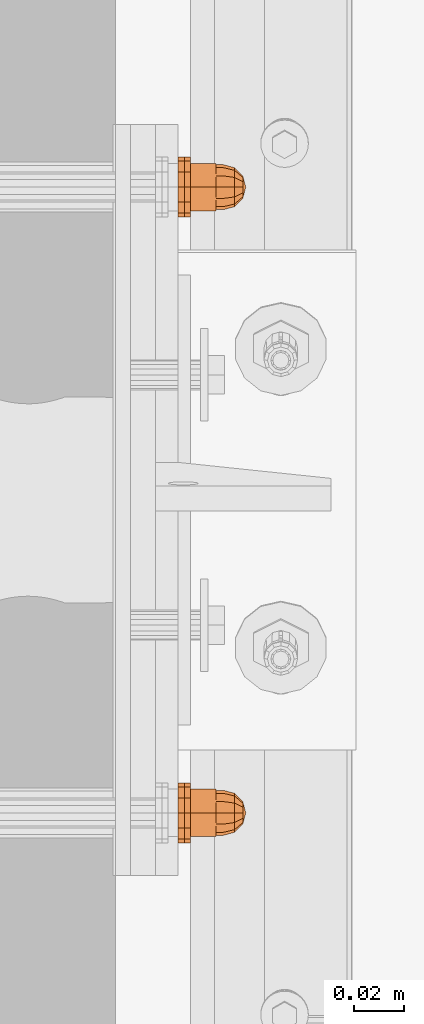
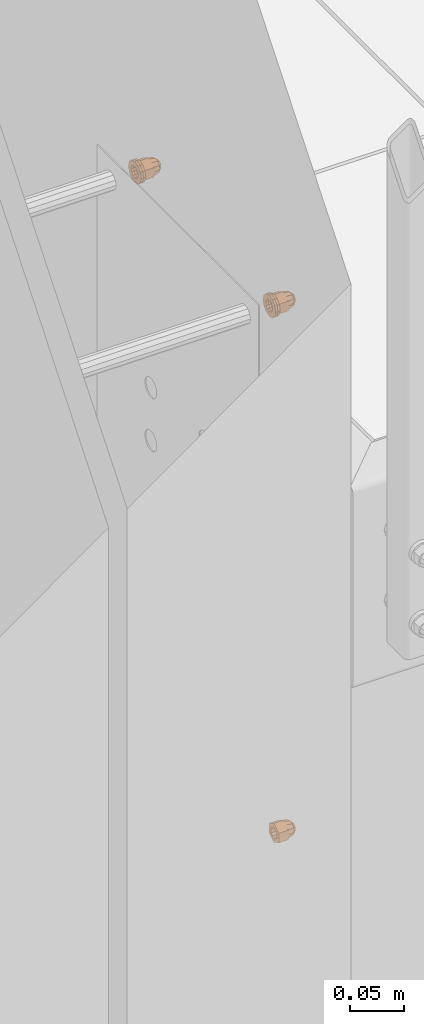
# One storey, part 109 of 162: 7 proxies.
"""IFC2X3 building model written with IfcOpenShell, lengths in millimetres."""

from ifc_helpers import new_model, entity, si_unit, converted_unit, origin_with_axes, place, context, project, spatial, faceted_brep, material, element, save


model = new_model("IFC2X3")

# Units and contexts
model_context = context("Model", 3, precision=1e-09, world=origin_with_axes())
ifc_project = project(units=[si_unit("LENGTHUNIT", "METRE", prefix="MILLI"), si_unit("AREAUNIT", "SQUARE_METRE"), si_unit("VOLUMEUNIT", "CUBIC_METRE"), converted_unit("PLANEANGLEUNIT", "DEGREE", entity("IfcPlaneAngleMeasure", 0.01745329), si_unit("PLANEANGLEUNIT", "RADIAN"), dimensions=[0, 0, 0, 0, 0, 0, 0])], contexts=[model_context])

# Site, building, storey
site_placement = place(None, origin_with_axes())
site = spatial("IfcSite", under=ifc_project, at=site_placement, Name="Hermannstra?e 1a, 60318 Frankfurt", CompositionType="ELEMENT")
building_placement = place(site_placement, origin_with_axes())
building = spatial("IfcBuilding", under=site, at=building_placement, Name="Struktur 1", CompositionType="ELEMENT")
storey_placement = place(building_placement, origin_with_axes())
storey = spatial("IfcBuildingStorey", under=building, at=storey_placement, Name="Default Storey", CompositionType="ELEMENT", Elevation=0.0)

# Proxies
ifc_material_1 = material(Name="Kunststoff")
proxy_1_placement = place(None, origin_with_axes())
element("IfcBuildingElementProxy", 1, at=proxy_1_placement, inside=storey, material=ifc_material_1, ObjectType="-", context=model_context, shape_type="Brep", body=[
    faceted_brep([(2550.80936482, 1691.001678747, 11598.999), (2548.30936482, 1691.001678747, 11598.999), (2548.30936482, 1692.609373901, 11604.999), (2550.80936482, 1692.609373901, 11604.999), (2548.30936482, 1686.609373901, 11594.606695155), (2548.30936482, 1680.609373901, 11592.999), (2548.30936482, 1674.609373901, 11594.606695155), (2548.30936482, 1670.217069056, 11598.999), (2548.30936482, 1668.609373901, 11604.999), (2548.30936482, 1670.217069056, 11610.999), (2548.30936482, 1674.609373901, 11615.391304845), (2548.30936482, 1680.609373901, 11616.999), (2548.30936482, 1686.609373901, 11615.391304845), (2548.30936482, 1691.001678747, 11610.999), (2548.30936482, 1683.859373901, 11599.369834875), (2548.30936482, 1686.238539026, 11601.749), (2548.30936482, 1687.109373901, 11604.999), (2548.30936482, 1686.238539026, 11608.249), (2548.30936482, 1683.859373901, 11610.628165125), (2548.30936482, 1680.609373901, 11611.499), (2548.30936482, 1677.359373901, 11610.628165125), (2548.30936482, 1674.980208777, 11608.249), (2548.30936482, 1674.109373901, 11604.999), (2548.30936482, 1674.980208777, 11601.749), (2548.30936482, 1677.359373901, 11599.369834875), (2548.30936482, 1680.609373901, 11598.499), (2550.80936482, 1687.109373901, 11604.999), (2550.80936482, 1686.238539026, 11601.749), (2550.80936482, 1686.609373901, 11594.606695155), (2550.80936482, 1691.001678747, 11610.999), (2550.80936482, 1686.609373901, 11615.391304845), (2550.80936482, 1680.609373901, 11616.999), (2550.80936482, 1674.609373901, 11615.391304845), (2550.80936482, 1670.217069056, 11610.999), (2550.80936482, 1668.609373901, 11604.999), (2550.80936482, 1670.217069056, 11598.999), (2550.80936482, 1674.609373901, 11594.606695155), (2550.80936482, 1680.609373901, 11592.999), (2550.80936482, 1683.859373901, 11599.369834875), (2550.80936482, 1680.609373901, 11598.499), (2550.80936482, 1677.359373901, 11599.369834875), (2550.80936482, 1674.980208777, 11601.749), (2550.80936482, 1674.109373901, 11604.999), (2550.80936482, 1674.980208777, 11608.249), (2550.80936482, 1677.359373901, 11610.628165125), (2550.80936482, 1680.609373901, 11611.499), (2550.80936482, 1683.859373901, 11610.628165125), (2550.80936482, 1686.238539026, 11608.249)], [[[0, 1, 2, 3]], [[1, 4, 5, 6, 7, 8, 9, 10, 11, 12, 13, 2], [14, 15, 16, 17, 18, 19, 20, 21, 22, 23, 24, 25]], [[26, 16, 15, 27]], [[28, 0, 3, 29, 30, 31, 32, 33, 34, 35, 36, 37], [26, 27, 38, 39, 40, 41, 42, 43, 44, 45, 46, 47]], [[1, 0, 28, 4]], [[16, 26, 47, 17]], [[3, 2, 13, 29]], [[27, 15, 14, 38]], [[4, 28, 37, 5]], [[17, 47, 46, 18]], [[29, 13, 12, 30]], [[38, 14, 25, 39]], [[18, 46, 45, 19]], [[5, 37, 36, 6]], [[39, 25, 24, 40]], [[30, 12, 11, 31]], [[19, 45, 44, 20]], [[6, 36, 35, 7]], [[40, 24, 23, 41]], [[31, 11, 10, 32]], [[20, 44, 43, 21]], [[7, 35, 34, 8]], [[41, 23, 22, 42]], [[32, 10, 9, 33]], [[21, 43, 42, 22]], [[8, 34, 33, 9]]]),
])
ifc_material_2 = material(Name="A4")
proxy_2_placement = place(None, origin_with_axes())
element("IfcBuildingElementProxy", 2, at=proxy_2_placement, inside=storey, material=ifc_material_2, ObjectType="-", context=model_context, shape_type="Brep", body=[
    faceted_brep([(2553.30936482, 1670.217069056, 11598.999), (2550.80936482, 1670.217069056, 11598.999), (2550.80936482, 1674.609373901, 11594.606695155), (2553.30936482, 1674.609373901, 11594.606695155), (2553.30936482, 1680.609373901, 11592.999), (2553.30936482, 1686.609373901, 11594.606695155), (2553.30936482, 1691.001678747, 11598.999), (2553.30936482, 1692.609373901, 11604.999), (2553.30936482, 1691.001678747, 11610.999), (2553.30936482, 1686.609373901, 11615.391304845), (2553.30936482, 1680.609373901, 11616.999), (2553.30936482, 1674.609373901, 11615.391304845), (2553.30936482, 1670.217069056, 11610.999), (2553.30936482, 1668.609373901, 11604.999), (2553.30936482, 1683.859373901, 11599.369834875), (2553.30936482, 1680.609373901, 11598.499), (2553.30936482, 1677.359373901, 11599.369834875), (2553.30936482, 1674.980208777, 11601.749), (2553.30936482, 1674.109373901, 11604.999), (2553.30936482, 1674.980208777, 11608.249), (2553.30936482, 1677.359373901, 11610.628165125), (2553.30936482, 1680.609373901, 11611.499), (2553.30936482, 1683.859373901, 11610.628165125), (2553.30936482, 1686.238539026, 11608.249), (2553.30936482, 1687.109373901, 11604.999), (2553.30936482, 1686.238539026, 11601.749), (2550.80936482, 1668.609373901, 11604.999), (2550.80936482, 1670.217069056, 11610.999), (2550.80936482, 1674.609373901, 11615.391304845), (2550.80936482, 1680.609373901, 11616.999), (2550.80936482, 1686.609373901, 11615.391304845), (2550.80936482, 1691.001678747, 11610.999), (2550.80936482, 1692.609373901, 11604.999), (2550.80936482, 1691.001678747, 11598.999), (2550.80936482, 1686.609373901, 11594.606695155), (2550.80936482, 1680.609373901, 11592.999), (2550.80936482, 1674.109373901, 11604.999), (2550.80936482, 1674.980208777, 11601.749), (2550.80936482, 1677.359373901, 11599.369834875), (2550.80936482, 1680.609373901, 11598.499), (2550.80936482, 1683.859373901, 11599.369834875), (2550.80936482, 1686.238539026, 11601.749), (2550.80936482, 1687.109373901, 11604.999), (2550.80936482, 1686.238539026, 11608.249), (2550.80936482, 1683.859373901, 11610.628165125), (2550.80936482, 1680.609373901, 11611.499), (2550.80936482, 1677.359373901, 11610.628165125), (2550.80936482, 1674.980208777, 11608.249)], [[[0, 1, 2, 3]], [[3, 4, 5, 6, 7, 8, 9, 10, 11, 12, 13, 0], [14, 15, 16, 17, 18, 19, 20, 21, 22, 23, 24, 25]], [[1, 26, 27, 28, 29, 30, 31, 32, 33, 34, 35, 2], [36, 37, 38, 39, 40, 41, 42, 43, 44, 45, 46, 47]], [[37, 17, 16, 38]], [[1, 0, 13, 26]], [[17, 37, 36, 18]], [[38, 16, 15, 39]], [[3, 2, 35, 4]], [[26, 13, 12, 27]], [[18, 36, 47, 19]], [[39, 15, 14, 40]], [[4, 35, 34, 5]], [[27, 12, 11, 28]], [[19, 47, 46, 20]], [[40, 14, 25, 41]], [[5, 34, 33, 6]], [[24, 42, 41, 25]], [[28, 11, 10, 29]], [[20, 46, 45, 21]], [[23, 43, 42, 24]], [[6, 33, 32, 7]], [[44, 22, 21, 45]], [[43, 23, 22, 44]], [[29, 10, 9, 30]], [[7, 32, 31, 8]], [[30, 9, 8, 31]]]),
])
proxy_3_placement = place(None, origin_with_axes())
element("IfcBuildingElementProxy", 3, at=proxy_3_placement, inside=storey, material=ifc_material_2, ObjectType="-", context=model_context, shape_type="Brep", body=[
    faceted_brep([(2553.30936482, 1686.609373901, 11604.999), (2563.30936482, 1686.609373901, 11604.999), (2563.30936482, 1685.805526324, 11607.999), (2553.30936482, 1685.805526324, 11607.999), (2563.30936482, 1683.609373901, 11610.195152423), (2553.30936482, 1683.609373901, 11610.195152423), (2553.30936482, 1685.805526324, 11601.999), (2563.30936482, 1685.805526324, 11601.999), (2553.30936482, 1690.089243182, 11599.525794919), (2553.30936482, 1680.609373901, 11594.052589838), (2553.30936482, 1671.129504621, 11599.525794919), (2553.30936482, 1671.129504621, 11610.472205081), (2553.30936482, 1680.609373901, 11615.945410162), (2553.30936482, 1690.089243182, 11610.472205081), (2553.30936482, 1683.609373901, 11599.802847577), (2553.30936482, 1680.609373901, 11610.999), (2553.30936482, 1677.609373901, 11610.195152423), (2553.30936482, 1675.413221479, 11607.999), (2553.30936482, 1674.609373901, 11604.999), (2553.30936482, 1675.413221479, 11601.999), (2553.30936482, 1677.609373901, 11599.802847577), (2553.30936482, 1680.609373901, 11598.999), (2563.30936482, 1680.609373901, 11594.052589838), (2563.30936482, 1690.089243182, 11599.525794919), (2563.30936482, 1690.089243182, 11610.472205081), (2563.30936482, 1680.609373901, 11615.945410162), (2563.30936482, 1671.129504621, 11610.472205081), (2563.30936482, 1671.129504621, 11599.525794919), (2563.30936482, 1683.609373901, 11599.802847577), (2563.30936482, 1680.609373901, 11598.999), (2563.30936482, 1677.609373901, 11599.802847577), (2563.30936482, 1675.413221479, 11601.999), (2563.30936482, 1674.609373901, 11604.999), (2563.30936482, 1675.413221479, 11607.999), (2563.30936482, 1677.609373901, 11610.195152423), (2563.30936482, 1680.609373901, 11610.999)], [[[0, 1, 2, 3]], [[3, 2, 4, 5]], [[1, 0, 6, 7]], [[8, 9, 10, 11, 12, 13], [14, 6, 0, 3, 5, 15, 16, 17, 18, 19, 20, 21]], [[22, 23, 24, 25, 26, 27], [1, 7, 28, 29, 30, 31, 32, 33, 34, 35, 4, 2]], [[7, 6, 14, 28]], [[24, 23, 8, 13]], [[5, 4, 35, 15]], [[13, 12, 25, 24]], [[28, 14, 21, 29]], [[23, 22, 9, 8]], [[15, 35, 34, 16]], [[12, 11, 26, 25]], [[29, 21, 20, 30]], [[22, 27, 10, 9]], [[16, 34, 33, 17]], [[27, 26, 11, 10]], [[30, 20, 19, 31]], [[17, 33, 32, 18]], [[31, 19, 18, 32]]]),
    faceted_brep([(2563.30936482, 1680.609373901, 11595.999), (2566.30936482, 1680.609373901, 11595.999), (2566.30936482, 1676.109373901, 11597.204771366), (2563.30936482, 1676.109373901, 11597.204771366), (2563.30936482, 1685.109373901, 11597.204771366), (2566.30936482, 1685.109373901, 11597.204771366), (2566.30936482, 1688.403602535, 11609.499), (2566.30936482, 1685.109373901, 11612.793228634), (2566.30936482, 1680.609373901, 11613.999), (2566.30936482, 1676.109373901, 11612.793228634), (2566.30936482, 1672.815145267, 11609.499), (2566.30936482, 1671.609373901, 11604.999), (2566.30936482, 1672.815145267, 11600.499), (2566.30936482, 1688.403602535, 11600.499), (2566.30936482, 1689.609373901, 11604.999), (2563.30936482, 1672.815145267, 11609.499), (2563.30936482, 1676.109373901, 11612.793228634), (2563.30936482, 1680.609373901, 11613.999), (2563.30936482, 1685.109373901, 11612.793228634), (2563.30936482, 1688.403602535, 11609.499), (2563.30936482, 1689.609373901, 11604.999), (2563.30936482, 1688.403602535, 11600.499), (2563.30936482, 1672.815145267, 11600.499), (2563.30936482, 1671.609373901, 11604.999)], [[[0, 1, 2, 3]], [[1, 0, 4, 5]], [[6, 7, 8, 9, 10, 11, 12, 2, 1, 5, 13, 14]], [[15, 16, 17, 18, 19, 20, 21, 4, 0, 3, 22, 23]], [[3, 2, 12, 22]], [[5, 4, 21, 13]], [[22, 12, 11, 23]], [[13, 21, 20, 14]], [[7, 18, 17, 8]], [[19, 6, 14, 20]], [[18, 7, 6, 19]], [[23, 11, 10, 15]], [[8, 17, 16, 9]], [[15, 10, 9, 16]]]),
    faceted_brep([(2566.30936482, 1688.403602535, 11600.499), (2570.80936482, 1687.359373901, 11601.101885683), (2570.80936482, 1684.506488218, 11598.249), (2566.30936482, 1685.109373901, 11597.204771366), (2566.30936482, 1672.815145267, 11609.499), (2566.30936482, 1676.109373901, 11612.793228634), (2566.30936482, 1680.609373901, 11613.999), (2566.30936482, 1685.109373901, 11612.793228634), (2566.30936482, 1688.403602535, 11609.499), (2566.30936482, 1689.609373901, 11604.999), (2566.30936482, 1680.609373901, 11595.999), (2566.30936482, 1676.109373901, 11597.204771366), (2566.30936482, 1672.815145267, 11600.499), (2566.30936482, 1671.609373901, 11604.999), (2570.80936482, 1680.609373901, 11597.204771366), (2570.80936482, 1688.403602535, 11604.999), (2574.103593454, 1685.109373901, 11604.999), (2574.103593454, 1684.506488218, 11602.749), (2570.80936482, 1676.712259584, 11598.249), (2574.103593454, 1682.859373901, 11601.101885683), (2570.80936482, 1687.359373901, 11608.896114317), (2574.103593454, 1684.506488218, 11607.249), (2574.103593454, 1680.609373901, 11600.499), (2575.30936482, 1680.609373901, 11604.999), (2570.80936482, 1684.506488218, 11611.749), (2574.103593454, 1682.859373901, 11608.896114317), (2570.80936482, 1680.609373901, 11612.793228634), (2570.80936482, 1673.859373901, 11601.101885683), (2574.103593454, 1678.359373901, 11601.101885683), (2574.103593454, 1680.609373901, 11609.499), (2570.80936482, 1676.712259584, 11611.749), (2574.103593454, 1678.359373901, 11608.896114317), (2570.80936482, 1672.815145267, 11604.999), (2574.103593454, 1676.712259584, 11602.749), (2570.80936482, 1673.859373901, 11608.896114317), (2574.103593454, 1676.712259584, 11607.249), (2574.103593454, 1676.109373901, 11604.999)], [[[0, 1, 2, 3]], [[4, 5, 6, 7, 8, 9, 0, 3, 10, 11, 12, 13]], [[3, 2, 14, 10]], [[15, 16, 17, 1]], [[1, 0, 9, 15]], [[10, 14, 18, 11]], [[1, 17, 19, 2]], [[16, 15, 20, 21]], [[2, 19, 22, 14]], [[23, 17, 16]], [[24, 25, 21, 20]], [[23, 16, 21]], [[24, 7, 6, 26]], [[20, 8, 7, 24]], [[15, 9, 8, 20]], [[11, 18, 27, 12]], [[14, 22, 28, 18]], [[23, 19, 17]], [[26, 29, 25, 24]], [[23, 21, 25]], [[23, 22, 19]], [[26, 6, 5, 30]], [[29, 26, 30, 31]], [[23, 25, 29]], [[12, 27, 32, 13]], [[18, 28, 33, 27]], [[23, 28, 22]], [[23, 29, 31]], [[23, 33, 28]], [[30, 5, 4, 34]], [[31, 30, 34, 35]], [[23, 31, 35]], [[13, 32, 34, 4]], [[27, 33, 36, 32]], [[23, 36, 33]], [[23, 35, 36]], [[35, 34, 32, 36]]]),
])
proxy_4_placement = place(None, origin_with_axes())
element("IfcBuildingElementProxy", 4, at=proxy_4_placement, inside=storey, material=ifc_material_1, ObjectType="-", context=model_context, shape_type="Brep", body=[
    faceted_brep([(2550.80936482, 1941.001678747, 11598.999), (2548.30936482, 1941.001678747, 11598.999), (2548.30936482, 1942.609373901, 11604.999), (2550.80936482, 1942.609373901, 11604.999), (2548.30936482, 1936.609373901, 11594.606695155), (2548.30936482, 1930.609373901, 11592.999), (2548.30936482, 1924.609373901, 11594.606695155), (2548.30936482, 1920.217069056, 11598.999), (2548.30936482, 1918.609373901, 11604.999), (2548.30936482, 1920.217069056, 11610.999), (2548.30936482, 1924.609373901, 11615.391304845), (2548.30936482, 1930.609373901, 11616.999), (2548.30936482, 1936.609373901, 11615.391304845), (2548.30936482, 1941.001678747, 11610.999), (2548.30936482, 1933.859373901, 11599.369834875), (2548.30936482, 1936.238539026, 11601.749), (2548.30936482, 1937.109373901, 11604.999), (2548.30936482, 1936.238539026, 11608.249), (2548.30936482, 1933.859373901, 11610.628165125), (2548.30936482, 1930.609373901, 11611.499), (2548.30936482, 1927.359373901, 11610.628165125), (2548.30936482, 1924.980208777, 11608.249), (2548.30936482, 1924.109373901, 11604.999), (2548.30936482, 1924.980208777, 11601.749), (2548.30936482, 1927.359373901, 11599.369834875), (2548.30936482, 1930.609373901, 11598.499), (2550.80936482, 1937.109373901, 11604.999), (2550.80936482, 1936.238539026, 11601.749), (2550.80936482, 1936.609373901, 11594.606695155), (2550.80936482, 1941.001678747, 11610.999), (2550.80936482, 1936.609373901, 11615.391304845), (2550.80936482, 1930.609373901, 11616.999), (2550.80936482, 1924.609373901, 11615.391304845), (2550.80936482, 1920.217069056, 11610.999), (2550.80936482, 1918.609373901, 11604.999), (2550.80936482, 1920.217069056, 11598.999), (2550.80936482, 1924.609373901, 11594.606695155), (2550.80936482, 1930.609373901, 11592.999), (2550.80936482, 1933.859373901, 11599.369834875), (2550.80936482, 1930.609373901, 11598.499), (2550.80936482, 1927.359373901, 11599.369834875), (2550.80936482, 1924.980208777, 11601.749), (2550.80936482, 1924.109373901, 11604.999), (2550.80936482, 1924.980208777, 11608.249), (2550.80936482, 1927.359373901, 11610.628165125), (2550.80936482, 1930.609373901, 11611.499), (2550.80936482, 1933.859373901, 11610.628165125), (2550.80936482, 1936.238539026, 11608.249)], [[[0, 1, 2, 3]], [[1, 4, 5, 6, 7, 8, 9, 10, 11, 12, 13, 2], [14, 15, 16, 17, 18, 19, 20, 21, 22, 23, 24, 25]], [[26, 16, 15, 27]], [[28, 0, 3, 29, 30, 31, 32, 33, 34, 35, 36, 37], [26, 27, 38, 39, 40, 41, 42, 43, 44, 45, 46, 47]], [[1, 0, 28, 4]], [[16, 26, 47, 17]], [[3, 2, 13, 29]], [[27, 15, 14, 38]], [[4, 28, 37, 5]], [[17, 47, 46, 18]], [[29, 13, 12, 30]], [[38, 14, 25, 39]], [[18, 46, 45, 19]], [[5, 37, 36, 6]], [[39, 25, 24, 40]], [[30, 12, 11, 31]], [[19, 45, 44, 20]], [[6, 36, 35, 7]], [[40, 24, 23, 41]], [[31, 11, 10, 32]], [[20, 44, 43, 21]], [[7, 35, 34, 8]], [[41, 23, 22, 42]], [[32, 10, 9, 33]], [[21, 43, 42, 22]], [[8, 34, 33, 9]]]),
])
proxy_5_placement = place(None, origin_with_axes())
element("IfcBuildingElementProxy", 5, at=proxy_5_placement, inside=storey, material=ifc_material_2, ObjectType="-", context=model_context, shape_type="Brep", body=[
    faceted_brep([(2553.30936482, 1920.217069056, 11598.999), (2550.80936482, 1920.217069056, 11598.999), (2550.80936482, 1924.609373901, 11594.606695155), (2553.30936482, 1924.609373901, 11594.606695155), (2553.30936482, 1930.609373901, 11592.999), (2553.30936482, 1936.609373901, 11594.606695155), (2553.30936482, 1941.001678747, 11598.999), (2553.30936482, 1942.609373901, 11604.999), (2553.30936482, 1941.001678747, 11610.999), (2553.30936482, 1936.609373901, 11615.391304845), (2553.30936482, 1930.609373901, 11616.999), (2553.30936482, 1924.609373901, 11615.391304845), (2553.30936482, 1920.217069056, 11610.999), (2553.30936482, 1918.609373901, 11604.999), (2553.30936482, 1933.859373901, 11599.369834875), (2553.30936482, 1930.609373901, 11598.499), (2553.30936482, 1927.359373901, 11599.369834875), (2553.30936482, 1924.980208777, 11601.749), (2553.30936482, 1924.109373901, 11604.999), (2553.30936482, 1924.980208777, 11608.249), (2553.30936482, 1927.359373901, 11610.628165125), (2553.30936482, 1930.609373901, 11611.499), (2553.30936482, 1933.859373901, 11610.628165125), (2553.30936482, 1936.238539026, 11608.249), (2553.30936482, 1937.109373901, 11604.999), (2553.30936482, 1936.238539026, 11601.749), (2550.80936482, 1918.609373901, 11604.999), (2550.80936482, 1920.217069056, 11610.999), (2550.80936482, 1924.609373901, 11615.391304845), (2550.80936482, 1930.609373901, 11616.999), (2550.80936482, 1936.609373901, 11615.391304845), (2550.80936482, 1941.001678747, 11610.999), (2550.80936482, 1942.609373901, 11604.999), (2550.80936482, 1941.001678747, 11598.999), (2550.80936482, 1936.609373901, 11594.606695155), (2550.80936482, 1930.609373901, 11592.999), (2550.80936482, 1924.109373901, 11604.999), (2550.80936482, 1924.980208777, 11601.749), (2550.80936482, 1927.359373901, 11599.369834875), (2550.80936482, 1930.609373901, 11598.499), (2550.80936482, 1933.859373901, 11599.369834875), (2550.80936482, 1936.238539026, 11601.749), (2550.80936482, 1937.109373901, 11604.999), (2550.80936482, 1936.238539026, 11608.249), (2550.80936482, 1933.859373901, 11610.628165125), (2550.80936482, 1930.609373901, 11611.499), (2550.80936482, 1927.359373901, 11610.628165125), (2550.80936482, 1924.980208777, 11608.249)], [[[0, 1, 2, 3]], [[3, 4, 5, 6, 7, 8, 9, 10, 11, 12, 13, 0], [14, 15, 16, 17, 18, 19, 20, 21, 22, 23, 24, 25]], [[1, 26, 27, 28, 29, 30, 31, 32, 33, 34, 35, 2], [36, 37, 38, 39, 40, 41, 42, 43, 44, 45, 46, 47]], [[37, 17, 16, 38]], [[1, 0, 13, 26]], [[17, 37, 36, 18]], [[38, 16, 15, 39]], [[3, 2, 35, 4]], [[26, 13, 12, 27]], [[18, 36, 47, 19]], [[39, 15, 14, 40]], [[4, 35, 34, 5]], [[27, 12, 11, 28]], [[19, 47, 46, 20]], [[40, 14, 25, 41]], [[5, 34, 33, 6]], [[24, 42, 41, 25]], [[28, 11, 10, 29]], [[20, 46, 45, 21]], [[23, 43, 42, 24]], [[6, 33, 32, 7]], [[44, 22, 21, 45]], [[43, 23, 22, 44]], [[29, 10, 9, 30]], [[7, 32, 31, 8]], [[30, 9, 8, 31]]]),
])
proxy_6_placement = place(None, origin_with_axes())
element("IfcBuildingElementProxy", 6, at=proxy_6_placement, inside=storey, material=ifc_material_2, ObjectType="-", context=model_context, shape_type="Brep", body=[
    faceted_brep([(2553.30936482, 1936.609373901, 11604.999), (2563.30936482, 1936.609373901, 11604.999), (2563.30936482, 1935.805526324, 11607.999), (2553.30936482, 1935.805526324, 11607.999), (2563.30936482, 1933.609373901, 11610.195152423), (2553.30936482, 1933.609373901, 11610.195152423), (2553.30936482, 1935.805526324, 11601.999), (2563.30936482, 1935.805526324, 11601.999), (2553.30936482, 1940.089243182, 11599.525794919), (2553.30936482, 1930.609373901, 11594.052589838), (2553.30936482, 1921.129504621, 11599.525794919), (2553.30936482, 1921.129504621, 11610.472205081), (2553.30936482, 1930.609373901, 11615.945410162), (2553.30936482, 1940.089243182, 11610.472205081), (2553.30936482, 1933.609373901, 11599.802847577), (2553.30936482, 1930.609373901, 11610.999), (2553.30936482, 1927.609373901, 11610.195152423), (2553.30936482, 1925.413221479, 11607.999), (2553.30936482, 1924.609373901, 11604.999), (2553.30936482, 1925.413221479, 11601.999), (2553.30936482, 1927.609373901, 11599.802847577), (2553.30936482, 1930.609373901, 11598.999), (2563.30936482, 1930.609373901, 11594.052589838), (2563.30936482, 1940.089243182, 11599.525794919), (2563.30936482, 1940.089243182, 11610.472205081), (2563.30936482, 1930.609373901, 11615.945410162), (2563.30936482, 1921.129504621, 11610.472205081), (2563.30936482, 1921.129504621, 11599.525794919), (2563.30936482, 1933.609373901, 11599.802847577), (2563.30936482, 1930.609373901, 11598.999), (2563.30936482, 1927.609373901, 11599.802847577), (2563.30936482, 1925.413221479, 11601.999), (2563.30936482, 1924.609373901, 11604.999), (2563.30936482, 1925.413221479, 11607.999), (2563.30936482, 1927.609373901, 11610.195152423), (2563.30936482, 1930.609373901, 11610.999)], [[[0, 1, 2, 3]], [[3, 2, 4, 5]], [[1, 0, 6, 7]], [[8, 9, 10, 11, 12, 13], [14, 6, 0, 3, 5, 15, 16, 17, 18, 19, 20, 21]], [[22, 23, 24, 25, 26, 27], [1, 7, 28, 29, 30, 31, 32, 33, 34, 35, 4, 2]], [[7, 6, 14, 28]], [[24, 23, 8, 13]], [[5, 4, 35, 15]], [[13, 12, 25, 24]], [[28, 14, 21, 29]], [[23, 22, 9, 8]], [[15, 35, 34, 16]], [[12, 11, 26, 25]], [[29, 21, 20, 30]], [[22, 27, 10, 9]], [[16, 34, 33, 17]], [[27, 26, 11, 10]], [[30, 20, 19, 31]], [[17, 33, 32, 18]], [[31, 19, 18, 32]]]),
    faceted_brep([(2563.30936482, 1930.609373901, 11595.999), (2566.30936482, 1930.609373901, 11595.999), (2566.30936482, 1926.109373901, 11597.204771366), (2563.30936482, 1926.109373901, 11597.204771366), (2563.30936482, 1935.109373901, 11597.204771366), (2566.30936482, 1935.109373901, 11597.204771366), (2566.30936482, 1938.403602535, 11609.499), (2566.30936482, 1935.109373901, 11612.793228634), (2566.30936482, 1930.609373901, 11613.999), (2566.30936482, 1926.109373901, 11612.793228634), (2566.30936482, 1922.815145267, 11609.499), (2566.30936482, 1921.609373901, 11604.999), (2566.30936482, 1922.815145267, 11600.499), (2566.30936482, 1938.403602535, 11600.499), (2566.30936482, 1939.609373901, 11604.999), (2563.30936482, 1922.815145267, 11609.499), (2563.30936482, 1926.109373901, 11612.793228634), (2563.30936482, 1930.609373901, 11613.999), (2563.30936482, 1935.109373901, 11612.793228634), (2563.30936482, 1938.403602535, 11609.499), (2563.30936482, 1939.609373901, 11604.999), (2563.30936482, 1938.403602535, 11600.499), (2563.30936482, 1922.815145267, 11600.499), (2563.30936482, 1921.609373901, 11604.999)], [[[0, 1, 2, 3]], [[1, 0, 4, 5]], [[6, 7, 8, 9, 10, 11, 12, 2, 1, 5, 13, 14]], [[15, 16, 17, 18, 19, 20, 21, 4, 0, 3, 22, 23]], [[3, 2, 12, 22]], [[5, 4, 21, 13]], [[22, 12, 11, 23]], [[13, 21, 20, 14]], [[7, 18, 17, 8]], [[19, 6, 14, 20]], [[18, 7, 6, 19]], [[23, 11, 10, 15]], [[8, 17, 16, 9]], [[15, 10, 9, 16]]]),
    faceted_brep([(2566.30936482, 1938.403602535, 11600.499), (2570.80936482, 1937.359373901, 11601.101885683), (2570.80936482, 1934.506488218, 11598.249), (2566.30936482, 1935.109373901, 11597.204771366), (2566.30936482, 1922.815145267, 11609.499), (2566.30936482, 1926.109373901, 11612.793228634), (2566.30936482, 1930.609373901, 11613.999), (2566.30936482, 1935.109373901, 11612.793228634), (2566.30936482, 1938.403602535, 11609.499), (2566.30936482, 1939.609373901, 11604.999), (2566.30936482, 1930.609373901, 11595.999), (2566.30936482, 1926.109373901, 11597.204771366), (2566.30936482, 1922.815145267, 11600.499), (2566.30936482, 1921.609373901, 11604.999), (2570.80936482, 1930.609373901, 11597.204771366), (2570.80936482, 1938.403602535, 11604.999), (2574.103593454, 1935.109373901, 11604.999), (2574.103593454, 1934.506488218, 11602.749), (2570.80936482, 1926.712259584, 11598.249), (2574.103593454, 1932.859373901, 11601.101885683), (2570.80936482, 1937.359373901, 11608.896114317), (2574.103593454, 1934.506488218, 11607.249), (2574.103593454, 1930.609373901, 11600.499), (2575.30936482, 1930.609373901, 11604.999), (2570.80936482, 1934.506488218, 11611.749), (2574.103593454, 1932.859373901, 11608.896114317), (2570.80936482, 1930.609373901, 11612.793228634), (2570.80936482, 1923.859373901, 11601.101885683), (2574.103593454, 1928.359373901, 11601.101885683), (2574.103593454, 1930.609373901, 11609.499), (2570.80936482, 1926.712259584, 11611.749), (2574.103593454, 1928.359373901, 11608.896114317), (2570.80936482, 1922.815145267, 11604.999), (2574.103593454, 1926.712259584, 11602.749), (2570.80936482, 1923.859373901, 11608.896114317), (2574.103593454, 1926.712259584, 11607.249), (2574.103593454, 1926.109373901, 11604.999)], [[[0, 1, 2, 3]], [[4, 5, 6, 7, 8, 9, 0, 3, 10, 11, 12, 13]], [[3, 2, 14, 10]], [[15, 16, 17, 1]], [[1, 0, 9, 15]], [[10, 14, 18, 11]], [[1, 17, 19, 2]], [[16, 15, 20, 21]], [[2, 19, 22, 14]], [[23, 17, 16]], [[24, 25, 21, 20]], [[23, 16, 21]], [[24, 7, 6, 26]], [[20, 8, 7, 24]], [[15, 9, 8, 20]], [[11, 18, 27, 12]], [[14, 22, 28, 18]], [[23, 19, 17]], [[26, 29, 25, 24]], [[23, 21, 25]], [[23, 22, 19]], [[26, 6, 5, 30]], [[29, 26, 30, 31]], [[23, 25, 29]], [[12, 27, 32, 13]], [[18, 28, 33, 27]], [[23, 28, 22]], [[23, 29, 31]], [[23, 33, 28]], [[30, 5, 4, 34]], [[31, 30, 34, 35]], [[23, 31, 35]], [[13, 32, 34, 4]], [[27, 33, 36, 32]], [[23, 36, 33]], [[23, 35, 36]], [[35, 34, 32, 36]]]),
])
proxy_7_placement = place(None, origin_with_axes())
element("IfcBuildingElementProxy", 7, at=proxy_7_placement, inside=storey, material=ifc_material_2, ObjectType="-", context=model_context, shape_type="Brep", body=[
    faceted_brep([(2563.30936482, 1686.609373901, 11004.999), (2553.30936482, 1686.609373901, 11004.999), (2553.30936482, 1685.805526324, 11001.999), (2563.30936482, 1685.805526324, 11001.999), (2553.30936482, 1683.609373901, 10999.802847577), (2563.30936482, 1683.609373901, 10999.802847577), (2563.30936482, 1685.805526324, 11007.999), (2553.30936482, 1685.805526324, 11007.999), (2553.30936482, 1690.089243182, 11010.472205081), (2553.30936482, 1690.089243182, 10999.525794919), (2553.30936482, 1680.609373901, 10994.052589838), (2553.30936482, 1671.129504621, 10999.525794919), (2553.30936482, 1671.129504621, 11010.472205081), (2553.30936482, 1680.609373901, 11015.945410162), (2553.30936482, 1683.609373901, 11010.195152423), (2553.30936482, 1680.609373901, 11010.999), (2553.30936482, 1677.609373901, 11010.195152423), (2553.30936482, 1675.413221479, 11007.999), (2553.30936482, 1674.609373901, 11004.999), (2553.30936482, 1675.413221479, 11001.999), (2553.30936482, 1677.609373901, 10999.802847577), (2553.30936482, 1680.609373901, 10998.999), (2563.30936482, 1690.089243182, 11010.472205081), (2563.30936482, 1680.609373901, 11015.945410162), (2563.30936482, 1671.129504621, 11010.472205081), (2563.30936482, 1671.129504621, 10999.525794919), (2563.30936482, 1680.609373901, 10994.052589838), (2563.30936482, 1690.089243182, 10999.525794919), (2563.30936482, 1683.609373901, 11010.195152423), (2563.30936482, 1680.609373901, 10998.999), (2563.30936482, 1680.609373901, 11010.999), (2563.30936482, 1677.609373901, 10999.802847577), (2563.30936482, 1677.609373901, 11010.195152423), (2563.30936482, 1675.413221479, 11001.999), (2563.30936482, 1675.413221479, 11007.999), (2563.30936482, 1674.609373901, 11004.999)], [[[0, 1, 2, 3]], [[3, 2, 4, 5]], [[1, 0, 6, 7]], [[8, 9, 10, 11, 12, 13], [7, 14, 15, 16, 17, 18, 19, 20, 21, 4, 2, 1]], [[22, 23, 24, 25, 26, 27]], [[7, 6, 28, 14]], [[22, 27, 9, 8]], [[5, 4, 21, 29]], [[10, 9, 27, 26]], [[14, 28, 30, 15]], [[23, 22, 8, 13]], [[29, 21, 20, 31]], [[11, 10, 26, 25]], [[15, 30, 32, 16]], [[24, 23, 13, 12]], [[31, 20, 19, 33]], [[25, 24, 12, 11]], [[16, 32, 34, 17]], [[33, 19, 18, 35]], [[17, 34, 35, 18]]]),
    faceted_brep([(2566.30936482, 1680.609373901, 11013.999), (2563.30936482, 1680.609373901, 11013.999), (2563.30936482, 1676.109373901, 11012.793228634), (2566.30936482, 1676.109373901, 11012.793228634), (2566.30936482, 1685.109373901, 11012.793228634), (2563.30936482, 1685.109373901, 11012.793228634), (2566.30936482, 1685.109373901, 10997.204771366), (2566.30936482, 1688.403602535, 11000.499), (2566.30936482, 1689.609373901, 11004.999), (2566.30936482, 1688.403602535, 11009.499), (2566.30936482, 1672.815145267, 11009.499), (2566.30936482, 1671.609373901, 11004.999), (2566.30936482, 1672.815145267, 11000.499), (2566.30936482, 1676.109373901, 10997.204771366), (2566.30936482, 1680.609373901, 10995.999), (2563.30936482, 1676.109373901, 10997.204771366), (2563.30936482, 1672.815145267, 11000.499), (2563.30936482, 1671.609373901, 11004.999), (2563.30936482, 1672.815145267, 11009.499), (2563.30936482, 1688.403602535, 11009.499), (2563.30936482, 1689.609373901, 11004.999), (2563.30936482, 1688.403602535, 11000.499), (2563.30936482, 1685.109373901, 10997.204771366), (2563.30936482, 1680.609373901, 10995.999)], [[[0, 1, 2, 3]], [[1, 0, 4, 5]], [[6, 7, 8, 9, 4, 0, 3, 10, 11, 12, 13, 14]], [[15, 16, 17, 18, 2, 1, 5, 19, 20, 21, 22, 23]], [[3, 2, 18, 10]], [[5, 4, 9, 19]], [[10, 18, 17, 11]], [[19, 9, 8, 20]], [[22, 6, 14, 23]], [[7, 21, 20, 8]], [[6, 22, 21, 7]], [[11, 17, 16, 12]], [[23, 14, 13, 15]], [[12, 16, 15, 13]]]),
    faceted_brep([(2570.80936482, 1687.359373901, 11008.896114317), (2566.30936482, 1688.403602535, 11009.499), (2566.30936482, 1685.109373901, 11012.793228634), (2570.80936482, 1684.506488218, 11011.749), (2566.30936482, 1676.109373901, 10997.204771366), (2566.30936482, 1672.815145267, 11000.499), (2566.30936482, 1671.609373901, 11004.999), (2566.30936482, 1672.815145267, 11009.499), (2566.30936482, 1676.109373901, 11012.793228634), (2566.30936482, 1680.609373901, 11013.999), (2566.30936482, 1689.609373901, 11004.999), (2566.30936482, 1688.403602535, 11000.499), (2566.30936482, 1685.109373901, 10997.204771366), (2566.30936482, 1680.609373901, 10995.999), (2570.80936482, 1680.609373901, 11012.793228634), (2574.103593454, 1685.109373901, 11004.999), (2570.80936482, 1688.403602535, 11004.999), (2574.103593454, 1684.506488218, 11007.249), (2570.80936482, 1676.712259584, 11011.749), (2574.103593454, 1682.859373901, 11008.896114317), (2574.103593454, 1684.506488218, 11002.749), (2570.80936482, 1687.359373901, 11001.101885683), (2574.103593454, 1680.609373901, 11009.499), (2575.30936482, 1680.609373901, 11004.999), (2574.103593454, 1682.859373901, 11001.101885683), (2570.80936482, 1684.506488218, 10998.249), (2570.80936482, 1680.609373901, 10997.204771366), (2570.80936482, 1673.859373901, 11008.896114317), (2574.103593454, 1678.359373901, 11008.896114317), (2574.103593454, 1680.609373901, 11000.499), (2570.80936482, 1676.712259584, 10998.249), (2574.103593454, 1678.359373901, 11001.101885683), (2570.80936482, 1672.815145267, 11004.999), (2574.103593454, 1676.712259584, 11007.249), (2570.80936482, 1673.859373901, 11001.101885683), (2574.103593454, 1676.712259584, 11002.749), (2574.103593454, 1676.109373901, 11004.999)], [[[0, 1, 2, 3]], [[4, 5, 6, 7, 8, 9, 2, 1, 10, 11, 12, 13]], [[3, 2, 9, 14]], [[15, 16, 0, 17]], [[1, 0, 16, 10]], [[14, 9, 8, 18]], [[17, 0, 3, 19]], [[16, 15, 20, 21]], [[19, 3, 14, 22]], [[17, 23, 15]], [[24, 25, 21, 20]], [[15, 23, 20]], [[12, 25, 26, 13]], [[11, 21, 25, 12]], [[10, 16, 21, 11]], [[18, 8, 7, 27]], [[22, 14, 18, 28]], [[19, 23, 17]], [[29, 26, 25, 24]], [[20, 23, 24]], [[22, 23, 19]], [[13, 26, 30, 4]], [[26, 29, 31, 30]], [[24, 23, 29]], [[27, 7, 6, 32]], [[28, 18, 27, 33]], [[28, 23, 22]], [[29, 23, 31]], [[33, 23, 28]], [[4, 30, 34, 5]], [[30, 31, 35, 34]], [[31, 23, 35]], [[32, 6, 5, 34]], [[33, 27, 32, 36]], [[36, 23, 33]], [[35, 23, 36]], [[34, 35, 36, 32]]]),
])

save(model, "model.ifc")
